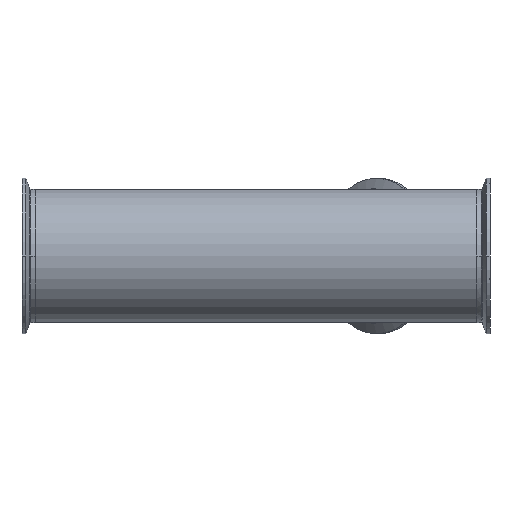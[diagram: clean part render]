
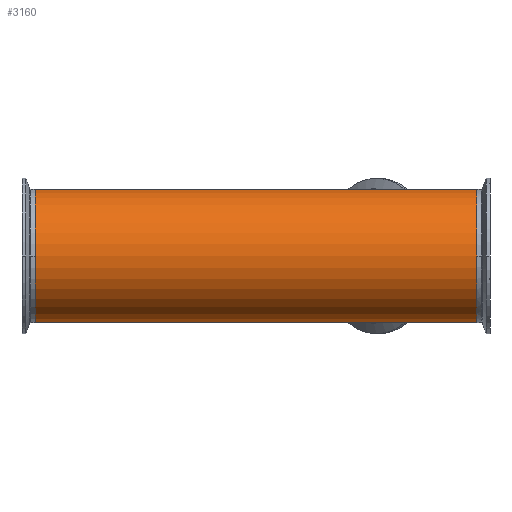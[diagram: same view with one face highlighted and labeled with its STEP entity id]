
A CAD part, front view. The second image highlights one B-rep face of the part: STEP entity #3160.
In plain terms, the highlighted cylindrical face has radius 50.8 mm (diameter 101.6 mm), a partial arc.
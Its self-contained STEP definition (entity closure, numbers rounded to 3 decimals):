
#57 = EDGE_CURVE ( 'NONE', #741, #4065, #256, .T. ) ;
#58 = DIRECTION ( 'NONE',  ( 0., 0., -1. ) ) ;
#210 = CARTESIAN_POINT ( 'NONE',  ( -58.3, 0., -50.8 ) ) ;
#256 = LINE ( 'NONE', #345, #3942 ) ;
#309 = ORIENTED_EDGE ( 'NONE', *, *, #57, .F. ) ;
#344 = DIRECTION ( 'NONE',  ( 1., 0., 0. ) ) ;
#345 = CARTESIAN_POINT ( 'NONE',  ( -58.3, 0., 50.8 ) ) ;
#353 = VERTEX_POINT ( 'NONE', #1767 ) ;
#479 = LINE ( 'NONE', #1082, #4096 ) ;
#544 = EDGE_LOOP ( 'NONE', ( #309, #2942, #4462, #2013, #3414, #3152 ) ) ;
#556 = CARTESIAN_POINT ( 'NONE',  ( 0., 0., 50.8 ) ) ;
#587 = CIRCLE ( 'NONE', #3367, 50.8 ) ;
#635 = LINE ( 'NONE', #1195, #3072 ) ;
#741 = VERTEX_POINT ( 'NONE', #3334 ) ;
#826 = CARTESIAN_POINT ( 'NONE',  ( -58.3, 0., -50.8 ) ) ;
#1082 = CARTESIAN_POINT ( 'NONE',  ( -58.3, 0., 50.8 ) ) ;
#1195 = CARTESIAN_POINT ( 'NONE',  ( -58.3, 0., -50.8 ) ) ;
#1427 = CARTESIAN_POINT ( 'NONE',  ( 278.9, 0., 0. ) ) ;
#1490 = EDGE_CURVE ( 'NONE', #3530, #353, #3482, .T. ) ;
#1519 = VECTOR ( 'NONE', #4498, 1000. ) ;
#1767 = CARTESIAN_POINT ( 'NONE',  ( 0., 0., -50.8 ) ) ;
#1783 = DIRECTION ( 'NONE',  ( 0., 0., -1. ) ) ;
#1795 = EDGE_CURVE ( 'NONE', #353, #2017, #635, .T. ) ;
#1831 = DIRECTION ( 'NONE',  ( 1., 0., 0. ) ) ;
#2013 = ORIENTED_EDGE ( 'NONE', *, *, #1795, .T. ) ;
#2017 = VERTEX_POINT ( 'NONE', #2505 ) ;
#2063 = CYLINDRICAL_SURFACE ( 'NONE', #3274, 50.8 ) ;
#2336 = DIRECTION ( 'NONE',  ( 1., 0., 0. ) ) ;
#2494 = CARTESIAN_POINT ( 'NONE',  ( -58.3, 0., 0. ) ) ;
#2505 = CARTESIAN_POINT ( 'NONE',  ( 278.9, 0., -50.8 ) ) ;
#2517 = DIRECTION ( 'NONE',  ( 1., 0., 0. ) ) ;
#2556 = CARTESIAN_POINT ( 'NONE',  ( -58.3, 0., 0. ) ) ;
#2860 = DIRECTION ( 'NONE',  ( 0., 0., -1. ) ) ;
#2942 = ORIENTED_EDGE ( 'NONE', *, *, #4564, .T. ) ;
#2947 = EDGE_CURVE ( 'NONE', #2017, #3680, #587, .T. ) ;
#3072 = VECTOR ( 'NONE', #2336, 1000. ) ;
#3152 = ORIENTED_EDGE ( 'NONE', *, *, #4638, .F. ) ;
#3160 = ADVANCED_FACE ( 'NONE', ( #3860 ), #2063, .T. ) ;
#3274 = AXIS2_PLACEMENT_3D ( 'NONE', #2556, #4351, #58 ) ;
#3330 = AXIS2_PLACEMENT_3D ( 'NONE', #2494, #344, #2860 ) ;
#3334 = CARTESIAN_POINT ( 'NONE',  ( -58.3, 0., 50.8 ) ) ;
#3365 = CIRCLE ( 'NONE', #3330, 50.8 ) ;
#3367 = AXIS2_PLACEMENT_3D ( 'NONE', #1427, #3943, #1783 ) ;
#3414 = ORIENTED_EDGE ( 'NONE', *, *, #2947, .T. ) ;
#3482 = LINE ( 'NONE', #210, #1519 ) ;
#3530 = VERTEX_POINT ( 'NONE', #826 ) ;
#3680 = VERTEX_POINT ( 'NONE', #4284 ) ;
#3860 = FACE_OUTER_BOUND ( 'NONE', #544, .T. ) ;
#3942 = VECTOR ( 'NONE', #1831, 1000. ) ;
#3943 = DIRECTION ( 'NONE',  ( -1., 0., 0. ) ) ;
#4065 = VERTEX_POINT ( 'NONE', #556 ) ;
#4096 = VECTOR ( 'NONE', #2517, 1000. ) ;
#4284 = CARTESIAN_POINT ( 'NONE',  ( 278.9, 0., 50.8 ) ) ;
#4351 = DIRECTION ( 'NONE',  ( 1., 0., 0. ) ) ;
#4462 = ORIENTED_EDGE ( 'NONE', *, *, #1490, .T. ) ;
#4498 = DIRECTION ( 'NONE',  ( 1., 0., 0. ) ) ;
#4564 = EDGE_CURVE ( 'NONE', #741, #3530, #3365, .T. ) ;
#4638 = EDGE_CURVE ( 'NONE', #4065, #3680, #479, .T. ) ;
